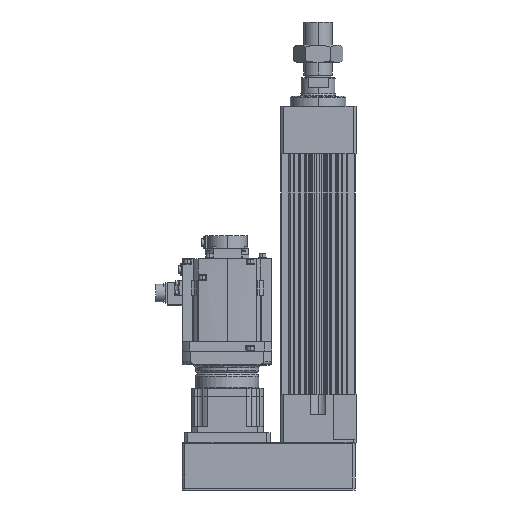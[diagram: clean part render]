
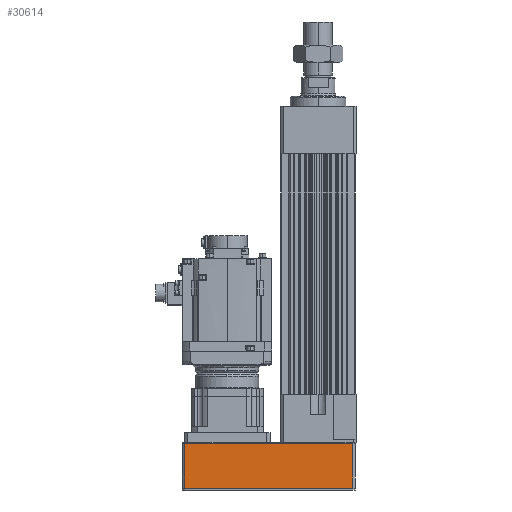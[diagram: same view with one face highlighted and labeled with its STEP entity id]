
A CAD part, left-side view. The second image highlights one B-rep face of the part: STEP entity #30614.
In plain terms, the highlighted planar face has unit normal (-1, 0, 0).
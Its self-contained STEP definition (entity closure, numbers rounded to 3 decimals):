
#2717 = LINE ( 'NONE', #32171, #4053 ) ;
#4053 = VECTOR ( 'NONE', #22342, 1000. ) ;
#7773 = LINE ( 'NONE', #24268, #35550 ) ;
#7801 = CARTESIAN_POINT ( 'NONE',  ( -73.5, 68.5, 0.5 ) ) ;
#8099 = DIRECTION ( 'NONE',  ( 0., 0., 1. ) ) ;
#10497 = VECTOR ( 'NONE', #8099, 1000. ) ;
#13861 = CARTESIAN_POINT ( 'NONE',  ( -73.5, 73.5, 90. ) ) ;
#18145 = VERTEX_POINT ( 'NONE', #38314 ) ;
#19869 = VECTOR ( 'NONE', #35968, 1000. ) ;
#20941 = ORIENTED_EDGE ( 'NONE', *, *, #26774, .T. ) ;
#22342 = DIRECTION ( 'NONE',  ( 0., 0., -1. ) ) ;
#24268 = CARTESIAN_POINT ( 'NONE',  ( -73.5, 68.5, 89.5 ) ) ;
#25503 = EDGE_CURVE ( 'NONE', #18145, #27816, #7773, .T. ) ;
#26774 = EDGE_CURVE ( 'NONE', #44590, #28349, #31394, .T. ) ;
#27816 = VERTEX_POINT ( 'NONE', #45863 ) ;
#28349 = VERTEX_POINT ( 'NONE', #35774 ) ;
#30288 = AXIS2_PLACEMENT_3D ( 'NONE', #13861, #53415, #40147 ) ;
#30405 = EDGE_LOOP ( 'NONE', ( #48085, #20941, #51455, #34459 ) ) ;
#30614 = ADVANCED_FACE ( 'NONE', ( #34462 ), #35433, .F. ) ;
#31394 = LINE ( 'NONE', #53940, #19869 ) ;
#32171 = CARTESIAN_POINT ( 'NONE',  ( -73.5, 68.5, 90. ) ) ;
#34459 = ORIENTED_EDGE ( 'NONE', *, *, #25503, .T. ) ;
#34462 = FACE_OUTER_BOUND ( 'NONE', #30405, .T. ) ;
#35433 = PLANE ( 'NONE',  #30288 ) ;
#35550 = VECTOR ( 'NONE', #54532, 1000. ) ;
#35774 = CARTESIAN_POINT ( 'NONE',  ( -73.5, -264., 0.5 ) ) ;
#35968 = DIRECTION ( 'NONE',  ( 0., -1., 0. ) ) ;
#37818 = EDGE_CURVE ( 'NONE', #27816, #44590, #2717, .T. ) ;
#38314 = CARTESIAN_POINT ( 'NONE',  ( -73.5, -264., 89.5 ) ) ;
#40147 = DIRECTION ( 'NONE',  ( 0., 1., 0. ) ) ;
#44590 = VERTEX_POINT ( 'NONE', #7801 ) ;
#45863 = CARTESIAN_POINT ( 'NONE',  ( -73.5, 68.5, 89.5 ) ) ;
#46379 = LINE ( 'NONE', #51844, #10497 ) ;
#48085 = ORIENTED_EDGE ( 'NONE', *, *, #37818, .T. ) ;
#48965 = EDGE_CURVE ( 'NONE', #28349, #18145, #46379, .T. ) ;
#51455 = ORIENTED_EDGE ( 'NONE', *, *, #48965, .T. ) ;
#51844 = CARTESIAN_POINT ( 'NONE',  ( -73.5, -264., 90. ) ) ;
#53415 = DIRECTION ( 'NONE',  ( 1., 0., 0. ) ) ;
#53940 = CARTESIAN_POINT ( 'NONE',  ( -73.5, 73.5, 0.5 ) ) ;
#54532 = DIRECTION ( 'NONE',  ( 0., 1., 0. ) ) ;
